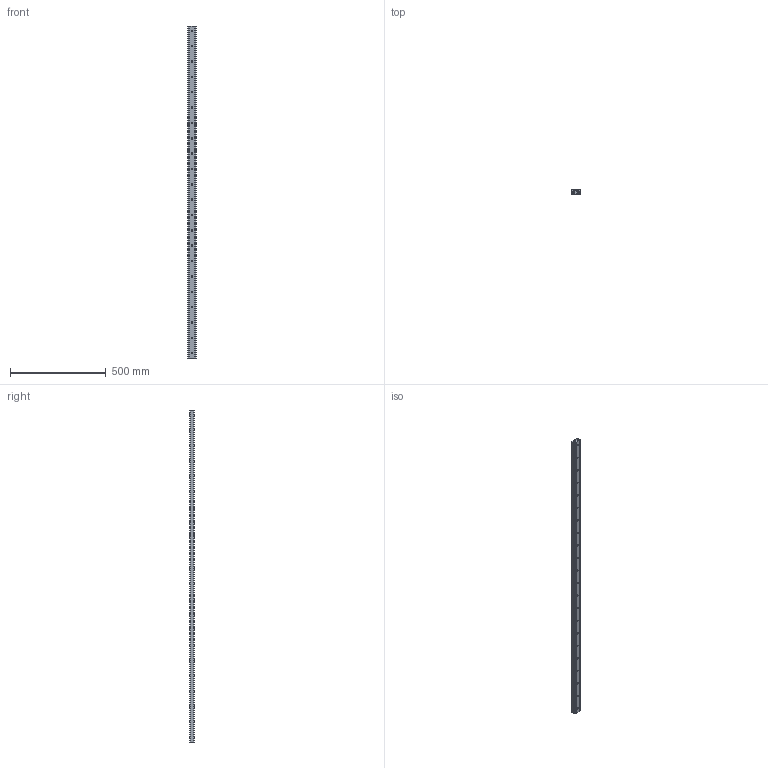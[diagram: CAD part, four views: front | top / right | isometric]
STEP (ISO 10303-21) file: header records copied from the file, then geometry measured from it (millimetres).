
FILE_DESCRIPTION(('STEP AP214'),'1');
FILE_NAME('rail_asn43-1730_00.stp','2017-06-06T10:18:53',('TraceParts'),('TraceParts S.A.'),'Spatial InterOp 3D',' ',' ');
FILE_SCHEMA(('automotive_design'));
Length unit declared in the file: millimetre
Products named in the file (2): rail_asn43-1730_00_1; rail_asn43-1730_00_2
Bounding box: 43 x 22.01 x 1730 mm (x, y, z)
Volume: 1052936.7 mm3; surface area: 406884 mm2
Topology: 2 solids, 2 shells, 297 faces, 732 edges, 444 vertices
Faces by surface type: cone 132, cylinder 119, plane 46
Entity records: 8986 total; most frequent: DIRECTION 1700, CARTESIAN_POINT 1475, ORIENTED_EDGE 1464, EDGE_CURVE 732, AXIS2_PLACEMENT_3D 669, VERTEX_POINT 444, EDGE_LOOP 390, CIRCLE 370
